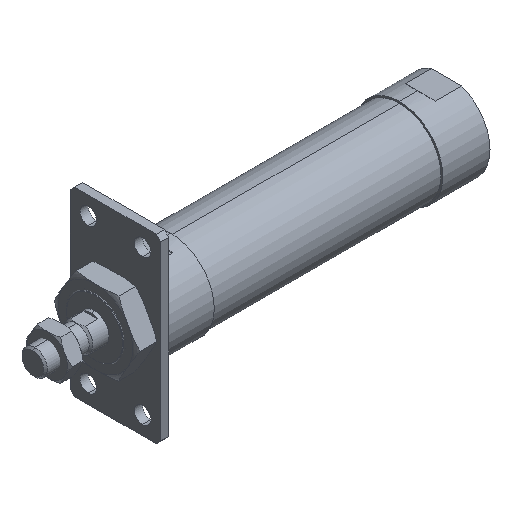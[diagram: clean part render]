
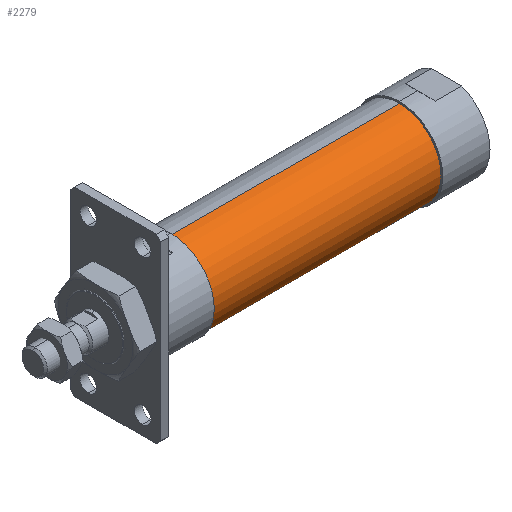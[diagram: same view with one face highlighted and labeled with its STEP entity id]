
A CAD part, isometric view. The second image highlights one B-rep face of the part: STEP entity #2279.
In plain terms, the highlighted cylindrical face has radius 23 mm (diameter 46 mm), a partial arc.
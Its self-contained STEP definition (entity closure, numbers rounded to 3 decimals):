
#158 = VERTEX_POINT ( 'NONE', #1346 ) ;
#163 = ORIENTED_EDGE ( 'NONE', *, *, #1347, .F. ) ;
#314 = ORIENTED_EDGE ( 'NONE', *, *, #1163, .T. ) ;
#371 = DIRECTION ( 'NONE',  ( -1., 0., 0. ) ) ;
#374 = VERTEX_POINT ( 'NONE', #3684 ) ;
#375 = CARTESIAN_POINT ( 'NONE',  ( 202., 0., -23. ) ) ;
#457 = DIRECTION ( 'NONE',  ( 0., 0., 1. ) ) ;
#496 = VECTOR ( 'NONE', #3835, 1000. ) ;
#541 = VERTEX_POINT ( 'NONE', #375 ) ;
#770 = CARTESIAN_POINT ( 'NONE',  ( 76., 0., 23. ) ) ;
#818 = DIRECTION ( 'NONE',  ( -1., 0., 0. ) ) ;
#1019 = EDGE_CURVE ( 'NONE', #374, #3342, #2056, .T. ) ;
#1163 = EDGE_CURVE ( 'NONE', #158, #3342, #3339, .T. ) ;
#1346 = CARTESIAN_POINT ( 'NONE',  ( 202., 0., 23. ) ) ;
#1347 = EDGE_CURVE ( 'NONE', #541, #374, #1462, .T. ) ;
#1421 = CARTESIAN_POINT ( 'NONE',  ( 202., 0., 0. ) ) ;
#1462 = LINE ( 'NONE', #4060, #2157 ) ;
#1501 = CYLINDRICAL_SURFACE ( 'NONE', #2856, 23. ) ;
#1520 = CARTESIAN_POINT ( 'NONE',  ( 76., 0., 0. ) ) ;
#1594 = CIRCLE ( 'NONE', #2900, 23. ) ;
#1610 = CARTESIAN_POINT ( 'NONE',  ( -1.784, 0., 23. ) ) ;
#1836 = DIRECTION ( 'NONE',  ( -1., 0., 0. ) ) ;
#1894 = CARTESIAN_POINT ( 'NONE',  ( -1.784, 0., 0. ) ) ;
#2056 = CIRCLE ( 'NONE', #3921, 23. ) ;
#2157 = VECTOR ( 'NONE', #3413, 1000. ) ;
#2182 = ORIENTED_EDGE ( 'NONE', *, *, #3963, .T. ) ;
#2279 = ADVANCED_FACE ( 'NONE', ( #2609 ), #1501, .T. ) ;
#2482 = DIRECTION ( 'NONE',  ( 0., 0., 1. ) ) ;
#2609 = FACE_OUTER_BOUND ( 'NONE', #3163, .T. ) ;
#2856 = AXIS2_PLACEMENT_3D ( 'NONE', #1894, #371, #3188 ) ;
#2900 = AXIS2_PLACEMENT_3D ( 'NONE', #1421, #818, #457 ) ;
#3163 = EDGE_LOOP ( 'NONE', ( #163, #2182, #314, #3554 ) ) ;
#3188 = DIRECTION ( 'NONE',  ( 0., 0., 1. ) ) ;
#3339 = LINE ( 'NONE', #1610, #496 ) ;
#3342 = VERTEX_POINT ( 'NONE', #770 ) ;
#3413 = DIRECTION ( 'NONE',  ( -1., 0., 0. ) ) ;
#3554 = ORIENTED_EDGE ( 'NONE', *, *, #1019, .F. ) ;
#3684 = CARTESIAN_POINT ( 'NONE',  ( 76., 0., -23. ) ) ;
#3835 = DIRECTION ( 'NONE',  ( -1., 0., 0. ) ) ;
#3921 = AXIS2_PLACEMENT_3D ( 'NONE', #1520, #1836, #2482 ) ;
#3963 = EDGE_CURVE ( 'NONE', #541, #158, #1594, .T. ) ;
#4060 = CARTESIAN_POINT ( 'NONE',  ( -1.784, 0., -23. ) ) ;
